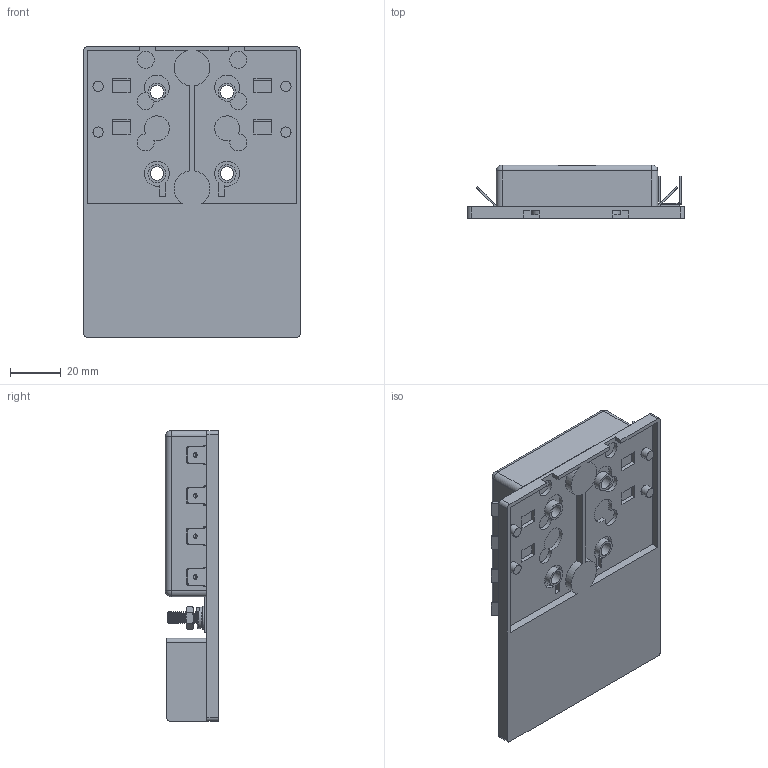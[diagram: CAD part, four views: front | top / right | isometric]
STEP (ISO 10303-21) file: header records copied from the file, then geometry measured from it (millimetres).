
FILE_DESCRIPTION(/* description */ (''),/* implementation_level */ '2;1');
FILE_NAME(/* name */ 'C:\Users\Hani\Desktop\work\BLC-108-G\BLC-108-G.stp',/* time_stamp */ '2021-07-08T15:05:28-07:00',/* author */ ('Hani'),/* organization */ (''),/* preprocessor_version */ 'ST-DEVELOPER v17',/* originating_system */ 'Autodesk Inventor 2019',/* authorisation */ '');
FILE_SCHEMA (('AUTOMOTIVE_DESIGN { 1 0 10303 214 3 1 1 }'));
Length unit declared in the file: inch
Products named in the file (13): BLC-108-G; BLC-106; BLOCK; plate2; terminal; terminal_MIR1; terminal_MIR; plate; holder; STUD; WASHER; LOCK WASHER; HEX NUT
Assembly tree (22 placements, depth 2):
  BLC-108-G
    BLC-106
    BLOCK
    plate2
    STUD  x2
    WASHER  x2
    LOCK WASHER  x2
    HEX NUT  x2
    terminal  x4
    terminal_MIR1  x3
    terminal_MIR
    plate
    holder  x2
Bounding box: 85.24 x 21.01 x 114.3 mm (x, y, z)
Volume: 96570.1 mm3; surface area: 51195.5 mm2
Topology: 22 solids, 22 shells, 1262 faces, 3333 edges, 2168 vertices
Faces by surface type: plane 761, cylinder 286, cone 96, bspline 81, torus 34, sphere 4
Full cylindrical faces by diameter (mm): 1.905 x20, 3.302 x16, 3.769 x32, 3.795 x2, 4.064 x4, 4.775 x2, 4.801 x34, 4.826 x6, 4.953 x2, 5.309 x4, 5.41 x1, 6.147 x2, 6.706 x2, 7.087 x4, 8.992 x2, 10.617 x3
Entity records: 32541 total; most frequent: CARTESIAN_POINT 10274, ORIENTED_EDGE 4678, DIRECTION 4182, EDGE_CURVE 2339, LINE 1660, VECTOR 1660, VERTEX_POINT 1532, AXIS2_PLACEMENT_3D 1261
